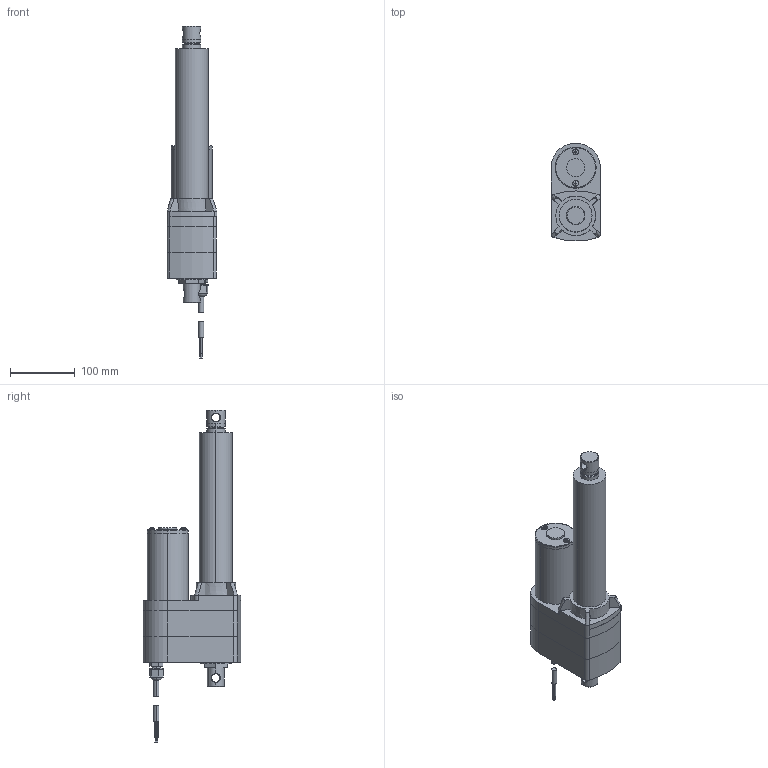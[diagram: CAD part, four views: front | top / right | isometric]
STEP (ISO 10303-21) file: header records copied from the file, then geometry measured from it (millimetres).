
FILE_DESCRIPTION (( 'STEP AP203' ), '1' );
FILE_NAME ('LA10_BALL_6_POT.step', '2021-02-24T15:35:03', ( '' ), ( '' ), 'SwSTEP 2.0', 'SolidWorks 2017', '' );
FILE_SCHEMA (( 'CONFIG_CONTROL_DESIGN' ));
Length unit declared in the file: millimetre
Products named in the file (1): LA10_BALL_6_POT
Bounding box: 77.22 x 151.29 x 513.54 mm (x, y, z)
Volume: 2009357.4 mm3; surface area: 200464 mm2
Topology: 14 solids, 14 shells, 345 faces, 740 edges, 460 vertices
Faces by surface type: plane 162, cylinder 115, cone 24, bspline 22, torus 18, sphere 4
Entity records: 11368 total; most frequent: CARTESIAN_POINT 3734, DIRECTION 1643, ORIENTED_EDGE 1480, EDGE_CURVE 740, AXIS2_PLACEMENT_3D 649, VERTEX_POINT 460, EDGE_LOOP 390, LINE 345
